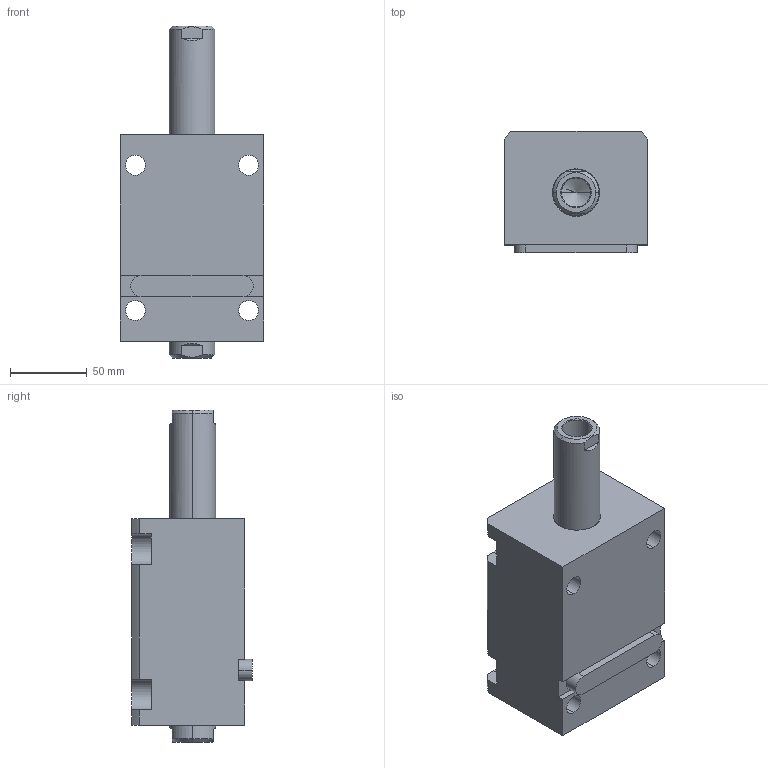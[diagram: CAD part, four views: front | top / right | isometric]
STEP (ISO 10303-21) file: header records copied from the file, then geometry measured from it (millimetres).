
FILE_DESCRIPTION (( 'STEP AP203' ), '1' );
FILE_NAME ('CHTB-LW50-60N.STEP', '2018-05-18T08:17:09', ( '' ), ( '' ), 'SwSTEP 2.0', 'SolidWorks 2015', '' );
FILE_SCHEMA (( 'CONFIG_CONTROL_DESIGN' ));
Length unit declared in the file: millimetre
Products named in the file (4): CHTM-SDMA50QG; 掛极LW50-60N; 活塞杆LW50-60N; CHTB-LW50-60N
Assembly tree (3 placements, depth 2):
  CHTB-LW50-60N
    掛极LW50-60N
    活塞杆LW50-60N
    CHTM-SDMA50QG
Bounding box: 94 x 79 x 217 mm (x, y, z)
Volume: 848174 mm3; surface area: 134730.2 mm2
Topology: 3 solids, 3 shells, 221 faces, 588 edges, 385 vertices
Faces by surface type: cylinder 102, plane 58, cone 31, torus 16, bspline 14
Entity records: 11831 total; most frequent: CARTESIAN_POINT 6126, ORIENTED_EDGE 1160, DIRECTION 1056, EDGE_CURVE 580, AXIS2_PLACEMENT_3D 416, VERTEX_POINT 385, EDGE_LOOP 257, LINE 224
